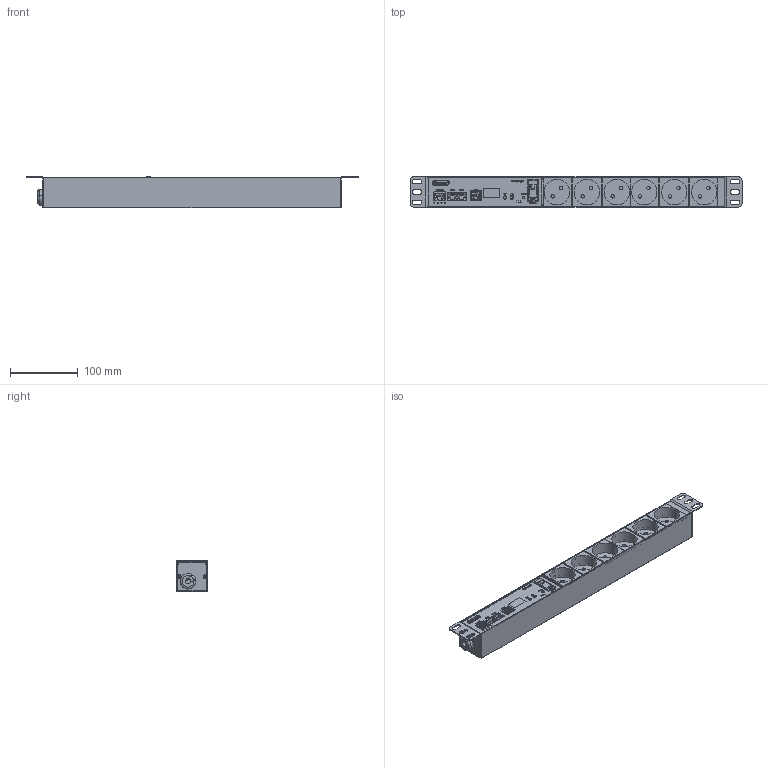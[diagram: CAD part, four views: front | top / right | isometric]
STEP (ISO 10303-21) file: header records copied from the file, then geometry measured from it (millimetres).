
FILE_DESCRIPTION(('STEP AP214'), '1');
FILE_NAME('iPDU-1502', '', ('UNSPECIFIED'), ('UNSPECIFIED'), 'ASCON STEP Converter 1.6', 'ASCON Math Kernel', '');
FILE_SCHEMA(('AUTOMOTIVE_DESIGN { 1 0 10303 214 3 1 1}'));
Length unit declared in the file: millimetre
Products named in the file (16): SNR-PDU-09S-2; SHELL; 4; 5; 6
Assembly tree (22 placements, depth 3):
  SNR-PDU-09S-2
    (unnamed)
    (unnamed)  x2
    (unnamed)
    (unnamed)
    (unnamed)
    (unnamed)  x4
    (unnamed)
    (unnamed)
    (unnamed)
    (unnamed)  x3
      SHELL
      SHELL
    4  x2
    5
    6
Bounding box: 490 x 44.5 x 46.6 mm (x, y, z)
Volume: 268014.3 mm3; surface area: 255000.6 mm2
Topology: 35 solids, 35 shells, 4053 faces, 11068 edges, 7286 vertices
Faces by surface type: plane 2784, cylinder 656, extrusion 562, cone 33, torus 10, sphere 8
Full cylindrical faces by diameter (mm): 1.2 x12, 2.997 x4, 3 x4, 3.5 x3, 4 x1, 4.2 x4, 5 x24, 5.6 x4, 8 x12, 37.5 x6
Entity records: 128964 total; most frequent: CARTESIAN_POINT 24344, ORIENTED_EDGE 17206, DIRECTION 13917, EDGE_CURVE 8603, VECTOR 7027, LINE 6465, VERTEX_POINT 5704, EDGE_LOOP 3479
